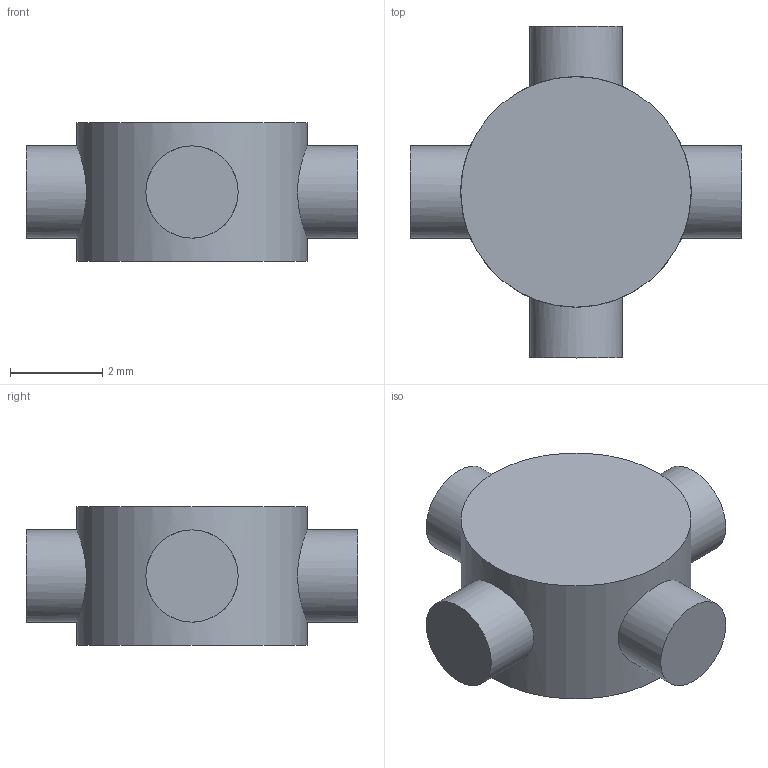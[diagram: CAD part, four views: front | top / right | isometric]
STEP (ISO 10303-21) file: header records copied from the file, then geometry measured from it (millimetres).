
FILE_DESCRIPTION(/* description */ ('Unknown'),/* implementation_level */ '2;1');
FILE_NAME(/* name */ 'ClGray_4525904_b)_AVV',/* time_stamp */ '2025-07-21T23:55:49+02:00',/* author */ ('Unknown'),/* organization */ ('Unknown'),/* preprocessor_version */ 'ST-DEVELOPER v19.4',/* originating_system */ 'Solid Edge',/* authorisation */ 'Unknown');
FILE_SCHEMA (('AUTOMOTIVE_DESIGN {1 0 10303 214 3 1 1}'));
Length unit declared in the file: millimetre
Products named in the file (1): ClGray_4525904_b)_AVV
Bounding box: 7.2 x 7.2 x 3 mm (x, y, z)
Volume: 73.4 mm3; surface area: 116.4 mm2
Topology: 1 solids, 1 shells, 11 faces, 21 edges, 15 vertices
Faces by surface type: plane 6, cylinder 5
Full cylindrical faces by diameter (mm): 2 x4, 5 x1
Entity records: 272 total; most frequent: CARTESIAN_POINT 72, DIRECTION 36, ORIENTED_EDGE 20, EDGE_LOOP 20, FACE_BOUND 20, AXIS2_PLACEMENT_3D 18, ADVANCED_FACE 11, EDGE_CURVE 10
